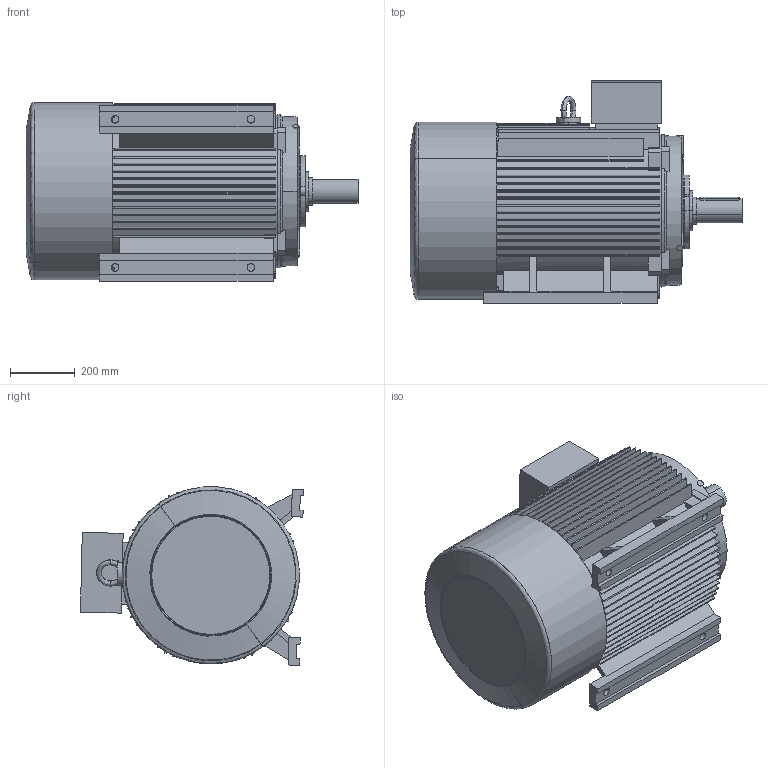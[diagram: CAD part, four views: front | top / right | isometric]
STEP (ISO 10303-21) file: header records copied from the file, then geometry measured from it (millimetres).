
FILE_DESCRIPTION (( 'STEP AP203' ), '1' );
FILE_NAME ('M3-280M-4p-FF-B3.STEP', '2019-07-16T09:28:20', ( '' ), ( '' ), 'SwSTEP 2.0', 'SolidWorks 2012', '' );
FILE_SCHEMA (( 'CONFIG_CONTROL_DESIGN' ));
Length unit declared in the file: millimetre
Products named in the file (8): Y2-280M+ｷﾎｨB3_-ｼ+､; Y2-280ｦｾﾂ-ｩﾃ_-ｼ+､; Ã¦Íß¦ð-Ô©ÃY2-280-4_-¼+¤; Y2-280S.M-4.6.8ﾍﾟ_-ｼ+､; Y2-280-4ﾃｦﾂ-ｩﾃ_-ｼ+､; Y2-280-4.6.8ﾀiﾍ_-ｼ+､; M3-280M-4p-FF-B3; 280ﾁｧ+ﾀ_-ｼ+､
Assembly tree (7 placements, depth 2):
  M3-280M-4p-FF-B3
    Y2-280-4ﾃｦﾂ-ｩﾃ_-ｼ+､
    Y2-280-4.6.8ﾀiﾍ_-ｼ+､
    Ã¦Íß¦ð-Ô©ÃY2-280-4_-¼+¤
    Y2-280ｦｾﾂ-ｩﾃ_-ｼ+､
    Y2-280S.M-4.6.8ﾍﾟ_-ｼ+､
    Y2-280M+ｷﾎｨB3_-ｼ+､
    280ﾁｧ+ﾀ_-ｼ+､
Bounding box: 1023.53 x 687.92 x 550.26 mm (x, y, z)
Volume: 38024826.3 mm3; surface area: 7163276.2 mm2
Topology: 10 solids, 10 shells, 795 faces, 2112 edges, 1396 vertices
Faces by surface type: plane 454, cylinder 289, cone 30, bspline 22
Entity records: 27660 total; most frequent: CARTESIAN_POINT 6398, DIRECTION 4342, ORIENTED_EDGE 4224, EDGE_CURVE 2112, AXIS2_PLACEMENT_3D 1532, VERTEX_POINT 1396, VECTOR 1278, LINE 1278
